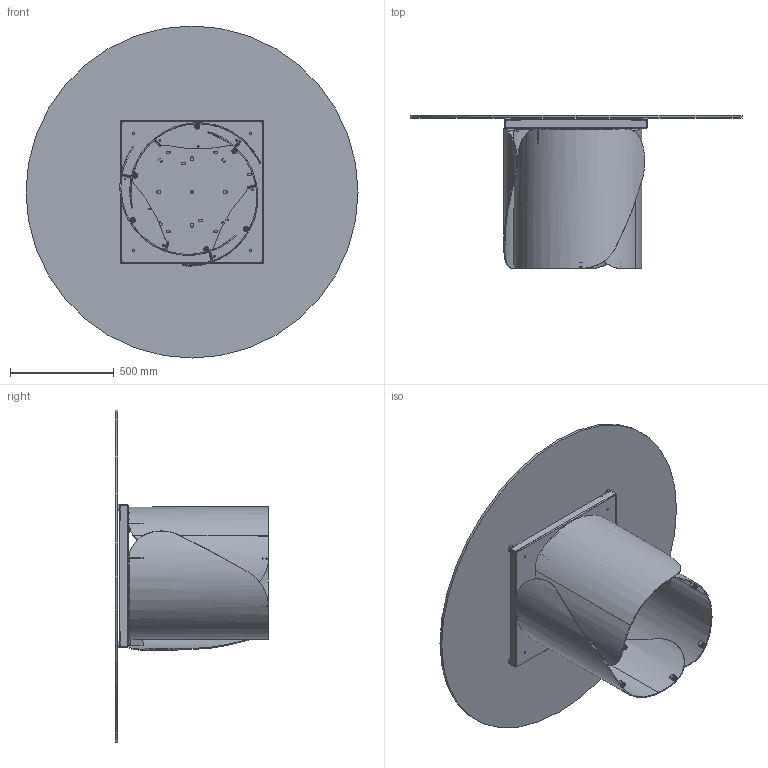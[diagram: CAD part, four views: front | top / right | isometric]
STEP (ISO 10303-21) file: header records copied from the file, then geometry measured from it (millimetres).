
FILE_DESCRIPTION (( 'STEP AP203' ), '1' );
FILE_NAME ('ON08G.STEP', '2024-08-06T13:31:06', ( '' ), ( '' ), 'SwSTEP 2.0', 'SolidWorks 2022', '' );
FILE_SCHEMA (( 'CONFIG_CONTROL_DESIGN' ));
Length unit declared in the file: millimetre
Products named in the file (15): COLLO TELAIO UNIVERSALE TTAV0801 CON FERRAMENTA_MTG TOP CRISTALLO VERNICIATO-CERAMICA; PIEDINO PER ONDA; OND000000_02-00-CILINDRO DI FISSAGGIO Ø25X17 M8; COLLO BASE ONDA SINGOLA CON FERRAMENTA; C1XCRMXX-00-piani Rotondi Cristallo_C08 D.160cm; TTAV0801-02-TELAIO UNIVERSALE TONDO; OND000000-03-ONDA BASE GREZZA; TTAV0801-02-TELAIO UNIVERSALE TONDO-VASSOIO; OND000000_01-00-PIASTRA SUPERIORE BASE ONDA; 434070-00-PIEDINO TPV GOMMA NERO D. 30x8max18_filo estetico; TTAV0801 TELAIO UNIVERSALE TONDO-PIASTRINA; ON08G; M8xXXmm_M8x20mm; rondella M8_8X24; OND000000_03-00-LAMIERA CURVATA PRINCIPALE_OND00000X-00-ONDA BASE GREZZA PROTOTIPO
Assembly tree (46 placements, depth 4):
  ON08G
    COLLO TELAIO UNIVERSALE TTAV0801 CON FERRAMENTA_MTG TOP CRISTALLO VERNICIATO-CERAMICA
      TTAV0801-02-TELAIO UNIVERSALE TONDO
        TTAV0801-02-TELAIO UNIVERSALE TONDO-VASSOIO
        TTAV0801 TELAIO UNIVERSALE TONDO-PIASTRINA  x4
      434070-00-PIEDINO TPV GOMMA NERO D. 30x8max18_filo estetico  x4
    COLLO BASE ONDA SINGOLA CON FERRAMENTA  x3
      OND000000-03-ONDA BASE GREZZA
        OND000000_03-00-LAMIERA CURVATA PRINCIPALE_OND00000X-00-ONDA BASE GREZZA PROTOTIPO
        OND000000_01-00-PIASTRA SUPERIORE BASE ONDA
        OND000000_02-00-CILINDRO DI FISSAGGIO Ø25X17 M8  x2
      PIEDINO PER ONDA
    rondella M8_8X24  x12
    M8xXXmm_M8x20mm  x12
    C1XCRMXX-00-piani Rotondi Cristallo_C08 D.160cm
Bounding box: 1600 x 738 x 1600 mm (x, y, z)
Volume: 34908288.3 mm3; surface area: 8721730 mm2
Topology: 62 solids, 62 shells, 1545 faces, 3651 edges, 2266 vertices
Faces by surface type: plane 626, cylinder 543, torus 184, cone 132, bspline 60
Entity records: 19338 total; most frequent: CARTESIAN_POINT 4513, DIRECTION 2655, ORIENTED_EDGE 2532, EDGE_CURVE 1266, AXIS2_PLACEMENT_3D 968, VERTEX_POINT 816, VECTOR 719, LINE 719
